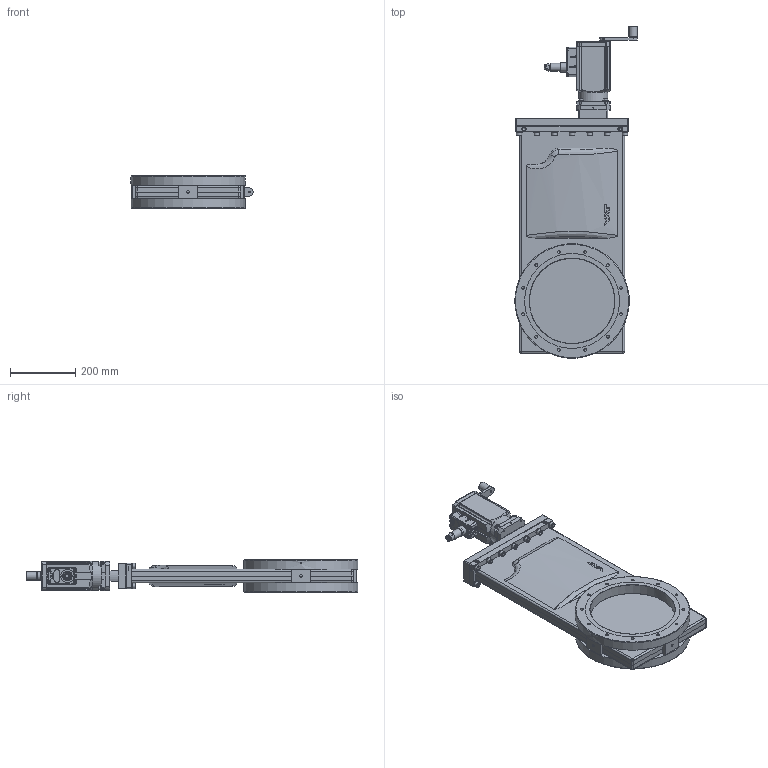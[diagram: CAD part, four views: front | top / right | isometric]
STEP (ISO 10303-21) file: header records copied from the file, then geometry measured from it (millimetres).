
FILE_DESCRIPTION(/* description */ (''),/* implementation_level */ '2;1');
FILE_NAME(/* name */ '1144144255_203.stp',/* time_stamp */ '2016-02-02T11:25:55+01:00',/* author */ (''),/* organization */ (''),/* preprocessor_version */ 'ST-DEVELOPER v15',/* originating_system */ 'SIEMENS PLM Software NX 9.0',/* authorisation */ '');
FILE_SCHEMA (('AP203_CONFIGURATION_CONTROLLED_3D_DESIGN_OF_MECHANICAL_PARTS_AND_ASSEMBLIES_MIM_LF { 1 0 10303 403 2 1 2}'));
Length unit declared in the file: millimetre
Products named in the file (40): 65664-01.2_25472ID; n-6005-790; 209489_1.1; 436171_25388ID; 436171_25396ID; 70973-01.1; n-8504-002; N-6024-548.1; 79156-01.2; N-6099-458.1; N-6198-006.1; N-6250-110.1; N-5054-012.1; 78965-01.1; 94489-01.1; 94481-01.1; 206692.1; 215426.3_25318ID; 215426.3_25393ID; 77900.1; 74628-01.3; 89473-01.1; 82418-01.1; 224811.1; 79157-01.2; 775041; 77876-01.1; 77858-01.1; 65313-01.1; N-5019-840.1; n-6134-410; 775146_MODEL; 224810_MODEL; 760536; 206694.1; 208553.1; 210260.1; 82682-r1.3; 90208-r1; 775541
Assembly tree (79 placements, depth 5):
  775541
    90208-r1
      82418-01.1
      89473-01.1
      74628-01.3
    n-6134-410  x14
    N-5019-840.1  x14
    65313-01.1
    82682-r1.3
      77900.1  x3
      215426.3_25393ID
      215426.3_25318ID
      210260.1
        436171_25396ID
        436171_25388ID
        209489_1.1
    77858-01.1
    77876-01.1
    775041
    208553.1
      206692.1
      94481-01.1
      94489-01.1
      78965-01.1
      206694.1
        760536
          65664-01.2_25472ID
      N-5054-012.1
      N-6250-110.1
      N-6198-006.1
      N-6099-458.1
      79156-01.2
      224810_MODEL  x4
        n-6005-790
    79157-01.2  x4
    224811.1  x4
    775146_MODEL
      N-6024-548.1  x4
      n-8504-002
      70973-01.1
Bounding box: 374.1 x 1015.33 x 99.75 mm (x, y, z)
Volume: 7380156 mm3; surface area: 1782729.6 mm2
Topology: 115 solids, 115 shells, 2049 faces, 4927 edges, 3199 vertices
Faces by surface type: plane 1035, cylinder 648, cone 134, torus 107, extrusion 74, sphere 26, bspline 25
Full cylindrical faces by diameter (mm): 1.66 x7, 2 x1, 2.125 x1, 2.5 x6, 2.8 x1, 3 x1, 3.3 x4, 3.65 x2, 4 x5, 4.35 x5, 4.45 x4, 4.5 x2, 4.625 x2, 4.96 x8, 5 x18, 5.97 x1, 5.994 x3, 6 x19, 6.1 x1, 6.15 x1, 6.25 x2, 6.45 x8, 7 x1, 7.1 x1, 7.5 x4, 8 x4, 8.25 x4, 8.3 x1, 8.36 x14, 8.4 x14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
Entity records: 57897 total; most frequent: CARTESIAN_POINT 13772, DIRECTION 7025, ORIENTED_EDGE 6764, EDGE_CURVE 3382, AXIS2_PLACEMENT_3D 2721, VERTEX_POINT 2450, EDGE_LOOP 2218, VECTOR 1583
